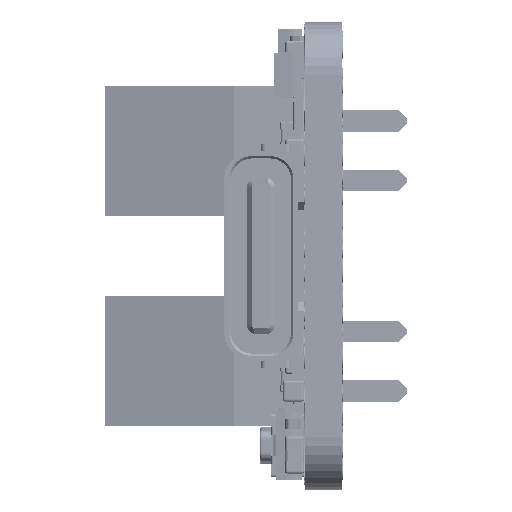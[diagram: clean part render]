
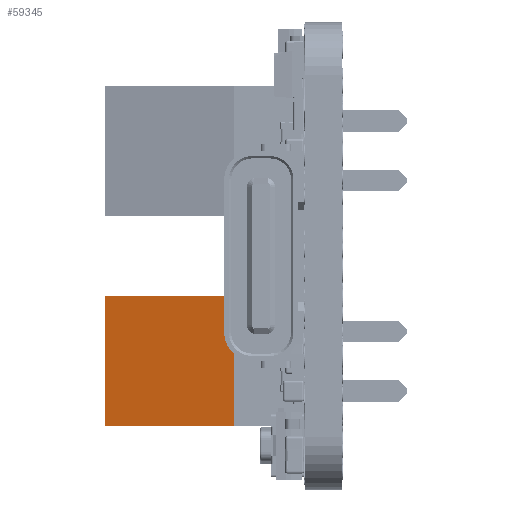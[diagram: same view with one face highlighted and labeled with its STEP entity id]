
A CAD part, left-side view. The second image highlights one B-rep face of the part: STEP entity #59345.
In plain terms, the highlighted planar face has unit normal (-0.977, 0.213, 0) as drawn and (0.977, 0.213, 0) by its records, which use the part's own axes.
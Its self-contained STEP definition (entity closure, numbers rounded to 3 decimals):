
#1879 = EDGE_CURVE ( 'NONE', #197624, #197679, #79101, .T. ) ;
#1988 = EDGE_CURVE ( 'NONE', #197596, #197543, #79206, .T. ) ;
#2209 = EDGE_CURVE ( 'NONE', #197596, #197624, #79528, .T. ) ;
#2360 = EDGE_CURVE ( 'NONE', #197679, #197543, #79665, .T. ) ;
#35393 = EDGE_LOOP ( 'NONE', ( #330129, #330119, #330161, #330125 ) ) ;
#59345 = ADVANCED_FACE ( 'NONE', ( #335287 ), #337164, .T. ) ;
#60980 = DIRECTION ( 'NONE',  ( 0., 0., 1. ) ) ;
#61022 = CARTESIAN_POINT ( 'NONE',  ( 3.1, 3., 0. ) ) ;
#61293 = CARTESIAN_POINT ( 'NONE',  ( 1.9, 8.5, 0. ) ) ;
#61299 = DIRECTION ( 'NONE',  ( 0., 0., 1. ) ) ;
#79101 = LINE ( 'NONE', #61022, #79136 ) ;
#79136 = VECTOR ( 'NONE', #60980, 1000. ) ;
#79206 = LINE ( 'NONE', #61293, #79301 ) ;
#79301 = VECTOR ( 'NONE', #61299, 1000. ) ;
#79528 = LINE ( 'NONE', #82752, #79544 ) ;
#79544 = VECTOR ( 'NONE', #82768, 1000. ) ;
#79623 = VECTOR ( 'NONE', #83307, 1000. ) ;
#79665 = LINE ( 'NONE', #83270, #79623 ) ;
#82752 = CARTESIAN_POINT ( 'NONE',  ( 1.9, 8.5, -2.77 ) ) ;
#82768 = DIRECTION ( 'NONE',  ( 0.213, -0.977, 0. ) ) ;
#83270 = CARTESIAN_POINT ( 'NONE',  ( 3.1, 3., 2.77 ) ) ;
#83307 = DIRECTION ( 'NONE',  ( -0.213, 0.977, 0. ) ) ;
#197543 = VERTEX_POINT ( 'NONE', #312672 ) ;
#197596 = VERTEX_POINT ( 'NONE', #312633 ) ;
#197624 = VERTEX_POINT ( 'NONE', #312643 ) ;
#197679 = VERTEX_POINT ( 'NONE', #312768 ) ;
#270014 = AXIS2_PLACEMENT_3D ( 'NONE', #337265, #337166, #337213 ) ;
#312633 = CARTESIAN_POINT ( 'NONE',  ( 1.9, 8.5, -2.77 ) ) ;
#312643 = CARTESIAN_POINT ( 'NONE',  ( 3.1, 3., -2.77 ) ) ;
#312672 = CARTESIAN_POINT ( 'NONE',  ( 1.9, 8.5, 2.77 ) ) ;
#312768 = CARTESIAN_POINT ( 'NONE',  ( 3.1, 3., 2.77 ) ) ;
#330119 = ORIENTED_EDGE ( 'NONE', *, *, #2360, .F. ) ;
#330125 = ORIENTED_EDGE ( 'NONE', *, *, #2209, .F. ) ;
#330129 = ORIENTED_EDGE ( 'NONE', *, *, #1988, .T. ) ;
#330161 = ORIENTED_EDGE ( 'NONE', *, *, #1879, .F. ) ;
#335287 = FACE_OUTER_BOUND ( 'NONE', #35393, .T. ) ;
#337164 = PLANE ( 'NONE',  #270014 ) ;
#337166 = DIRECTION ( 'NONE',  ( 0.977, 0.213, 0. ) ) ;
#337213 = DIRECTION ( 'NONE',  ( -0.213, 0.977, 0. ) ) ;
#337265 = CARTESIAN_POINT ( 'NONE',  ( 3.1, 3., 0. ) ) ;
